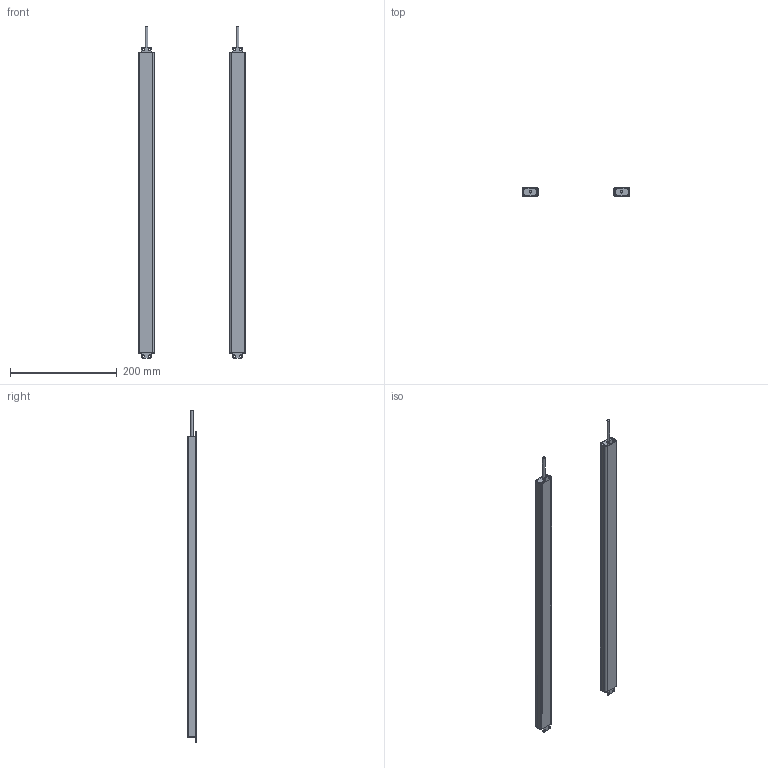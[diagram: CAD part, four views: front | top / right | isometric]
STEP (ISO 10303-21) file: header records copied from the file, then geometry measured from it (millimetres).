
FILE_DESCRIPTION(/* description */ (''),/* implementation_level */ '2;1');
FILE_NAME(/* name */ '2820（16X30ZW).stp',/* time_stamp */ '2020-07-14T19:13:05+08:00',/* author */ (''),/* organization */ (''),/* preprocessor_version */ 'ST-DEVELOPER v16',/* originating_system */ 'SIEMENS PLM Software NX 10.0',/* authorisation */ '');
FILE_SCHEMA (('AP203_CONFIGURATION_CONTROLLED_3D_DESIGN_OF_MECHANICAL_PARTS_AND_ASSEMBLIES_MIM_LF { 1 0 10303 403 2 1 2}'));
Length unit declared in the file: millimetre
Products named in the file (1): Admi58A03253m7gz
Bounding box: 200 x 16 x 621.5 mm (x, y, z)
Volume: 162758.3 mm3; surface area: 240537.4 mm2
Topology: 10 solids, 10 shells, 296 faces, 830 edges, 554 vertices
Faces by surface type: plane 160, cylinder 136
Full cylindrical faces by diameter (mm): 5 x2
Entity records: 9760 total; most frequent: DIRECTION 1692, CARTESIAN_POINT 1675, ORIENTED_EDGE 1652, EDGE_CURVE 826, AXIS2_PLACEMENT_3D 569, LINE 554, VECTOR 554, VERTEX_POINT 552
